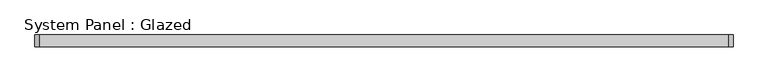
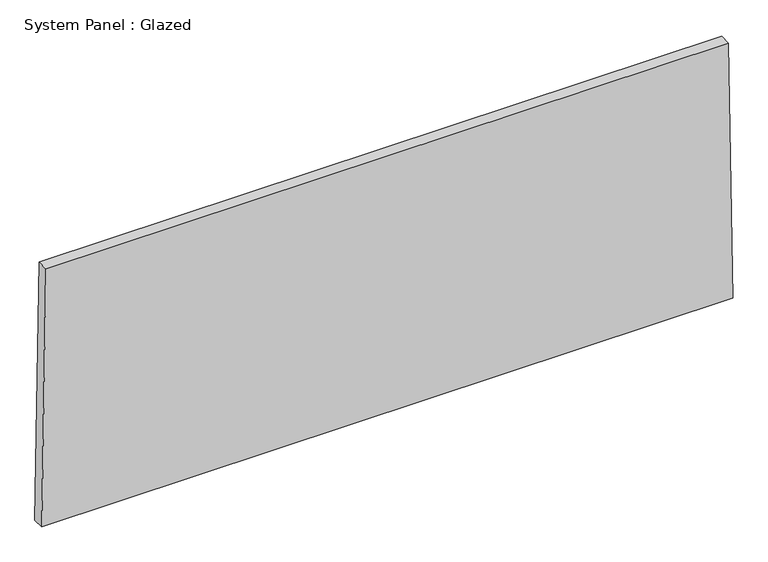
"""IFC4 building model written with IfcOpenShell, lengths in millimetres: plate geometry, System Panel : Glazed."""

from ifc_helpers import new_model, si_unit, frame, origin, place, context, project, spatial, polyline, outline, extrude, source, transform, mapped, element, save


def system_panel_glazed_e3c53362(model_context):
    return source(origin(), model_context, "Body", "SweptSolid", [
        extrude(outline(polyline([(0.0, -744.0962429), (0.0, 744.0962429), (584.1270913, 735.0612331), (584.1270913, -735.0612331), (0.0, -744.0962429)])), frame((0.0, -44.45, 0.0), z_axis=(0.0, 1.0, 0.0), x_axis=(0.0, 0.0, 1.0)), (0.0, 0.0, 1.0), 25.4),
    ])


if __name__ == "__main__":
    model = new_model("IFC4")
    model_context = context("Model", 3, world=origin())
    ifc_project = project(units=[si_unit("LENGTHUNIT", "METRE", prefix="MILLI")], contexts=[model_context])
    site = spatial("IfcSite", under=ifc_project)
    building = spatial("IfcBuilding", under=site)
    placement = place(None, origin())
    system_panel_glazed_shape = system_panel_glazed_e3c53362(model_context)
    element("IfcPlate", 1, ObjectType="System Panel : Glazed", at=placement, inside=building, context=model_context, shape_type="MappedRepresentation", body=[
        mapped(system_panel_glazed_shape, transform((0.0, 0.0, 0.0), x_axis=(1.0, 0.0, 0.0), y_axis=(0.0, 1.0, 0.0), z_axis=(0.0, 0.0, 1.0))),
    ])
    save(model, "model.ifc")
